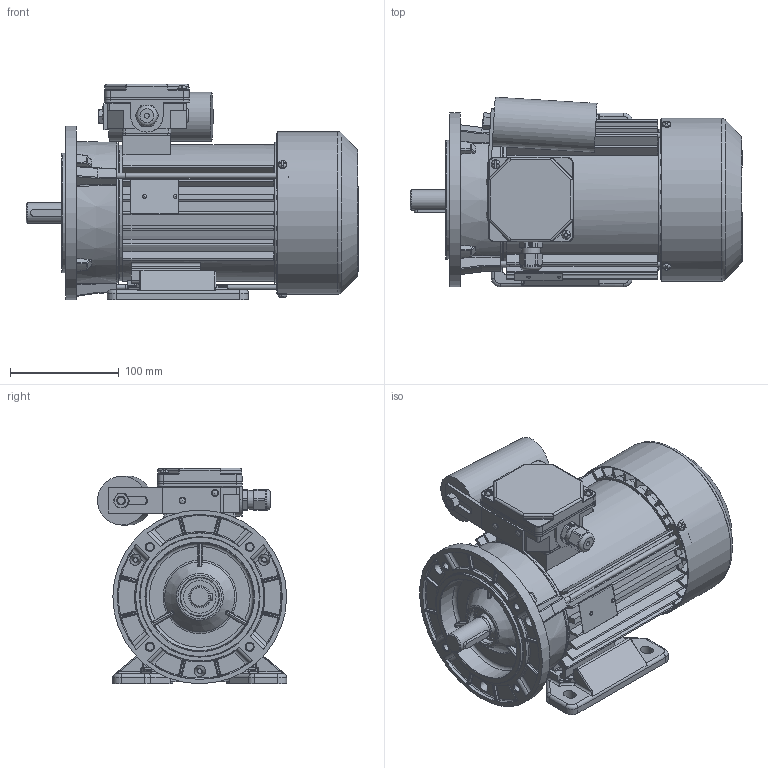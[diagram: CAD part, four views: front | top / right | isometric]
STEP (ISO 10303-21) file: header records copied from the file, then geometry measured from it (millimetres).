
FILE_DESCRIPTION( ( 'Unknown' ), '1' );
FILE_NAME( 'G:/Poczta Tk-1/STP/w.m.80/SEh80/SELh80-.C1.stp', 'Unknown', ( 'K. Szlosek' ), ( 'BESEL S.A.' ), 'PSStep 17.0.49', 'Unknown', ' ' );
FILE_SCHEMA( ( 'AUTOMOTIVE_DESIGN { 1 0 10303 214 1 1 1 1 }' ) );
Length unit declared in the file: millimetre
Products named in the file (34): Assem1; K1-1257 Kadłub S(E,M)h80-C i D; K2-2027 Tarcza łożyskowa P S(E,M)h80-.A,C; Wkręt samogwintujący M4x16; Wkręt samogwintujący M4x10; K4-2999 Uchwyt kondensatora; K3-7039 wał standard Sh80-C; K4-4489 Osłona przewietrznika Sh80,90-A,C; K4-2320 Uszczelka nr 1 Sh71,80; K4-2820 Uszczelka nr 2 Sh71,80; K2-0860 Pokrywka skrzynki zaciskowej; K2-1131 Podstawa skrzynki zaciskowej jednofazowa; Wpust A6x6x32; K2-1715 Przewietrznik; K4-0898 Tulejka uszczelniająca; Kondensator zb 25-31,5uF Comar; nakrętka M8; Nit 4x12 po skróceniu; Nitokołek A 2x6; Łożysko 6204; Śruba ściągająca E_M5x168; Tabliczka znamionowa 32x44; Dławnica M16x1,5; K1-1259 Tarcza kołnierzowa 80 B14_1 ; K1-0437 Łapa Sh80-.. 
Assembly tree (50 placements, depth 2):
  Assem1
    K1-1257 Kadłub S(E,M)h80-C i D
    K2-2027 Tarcza łożyskowa P S(E,M)h80-.A,C
    Wkręt samogwintujący M4x16  x2
    Wkręt samogwintujący M4x10  x3
    K4-2999 Uchwyt kondensatora
    K3-7039 wał standard Sh80-C
    K4-4489 Osłona przewietrznika Sh80,90-A,C
    K4-2320 Uszczelka nr 1 Sh71,80
    K4-2820 Uszczelka nr 2 Sh71,80
    K2-0860 Pokrywka skrzynki zaciskowej
    K2-1131 Podstawa skrzynki zaciskowej jednofazowa
    Wpust A6x6x32
    K2-1715 Przewietrznik
    K4-0898 Tulejka uszczelniająca
    Kondensator zb 25-31,5uF Comar
    nakrętka M8
    Nit 4x12 po skróceniu  x2
    Nitokołek A 2x6  x2
    Łożysko 6204  x2
    Łożysko 6204  x2
    Łożysko 6204  x2
    Łożysko 6204  x2
    Łożysko 6204  x2
    Łożysko 6204  x2
    Łożysko 6204  x2
    Łożysko 6204  x2
    Łożysko 6204  x2
    Łożysko 6204  x2
    Śruba ściągająca E_M5x168  x3
    Tabliczka znamionowa 32x44
    Dławnica M16x1,5
    K1-1259 Tarcza kołnierzowa 80 B14_1 
    K1-0437 Łapa Sh80-.. 
Bounding box: 305.8 x 174.3 x 198.5 mm (x, y, z)
Volume: 1302957.9 mm3; surface area: 649952.6 mm2
Topology: 50 solids, 66 shells, 3134 faces, 8415 edges, 5354 vertices
Faces by surface type: plane 1373, cylinder 967, bspline 411, torus 172, cone 167, sphere 44
Full cylindrical faces by diameter (mm): 2 x2, 2.4 x2, 3 x2, 3.7 x11, 4 x7, 4.2 x3, 4.3 x2, 4.5 x4, 4.6 x3, 4.8 x4, 5 x7, 5.5 x3, 6 x2, 6.5 x5, 6.647 x1, 6.8 x4, 8 x10, 10 x2, 14.38 x1, 16 x1, 17.2 x1, 18.376 x1, 18.6 x1, 19 x2, 19.3 x1, 19.5 x2, 19.9 x1, 20 x4, 20.3 x2, 20.4 x4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
Entity records: 174556 total; most frequent: CARTESIAN_POINT 80652, ORIENTED_EDGE 15144, DIRECTION 14106, EDGE_CURVE 7572, AXIS2_PLACEMENT_3D 5281, VERTEX_POINT 4994, LINE 3544, VECTOR 3544
